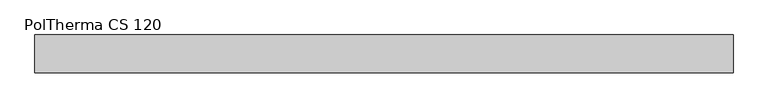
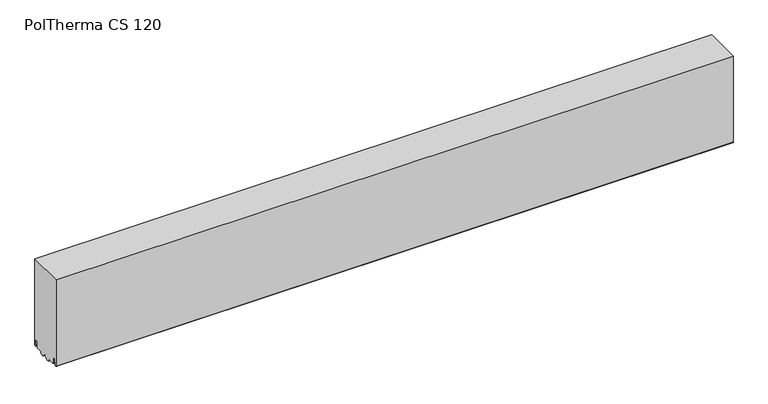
"""IFC4 building model written with IfcOpenShell, lengths in millimetres: plate geometry, Europanels_Poltherma CS_Hz : PolTherma CS 120."""

import ifcopenshell
import ifcopenshell.guid

model = None  # the IFC model being written
_history = None  # IfcOwnerHistory: only IFC2X3 demands one
_inside = {}  # id of a spatial element -> (the spatial element, [elements in it])
_under = {}  # id of a project, library or spatial element -> (it, [spatial elements below it])
_declared = {}  # id of a project -> (the project, [libraries it declares])
_typed = {}  # id of a type object -> (the type object, [elements of that type])
_made_of = {}  # id of a material, layer set ... -> (it, [elements and type objects made of it])


def new_model(schema):
    """Start an empty IFC model of exactly this schema.

    Asked for "IFC4X3", IfcOpenShell would pick the latest addendum, in which some entities
    have other attributes; the version numbers below select the first issue.
    IFC2X3 requires an IfcOwnerHistory on every rooted entity: one is made here for all.
    """
    global model, _history
    if schema == "IFC4X3":
        model = ifcopenshell.file(schema_version=(4, 3, 0, 0))
    else:
        model = ifcopenshell.file(schema=schema)
    _inside.clear()
    _under.clear()
    _declared.clear()
    _typed.clear()
    _made_of.clear()
    _history = None
    if model.schema == "IFC2X3":
        org = make("IfcOrganization", Name="unknown")
        user = make(
            "IfcPersonAndOrganization",
            ThePerson=make("IfcPerson", FamilyName="unknown"),
            TheOrganization=org,
        )
        app = make(
            "IfcApplication",
            ApplicationDeveloper=org,
            Version="unknown",
            ApplicationFullName="unknown",
            ApplicationIdentifier="unknown",
        )
        _history = make(
            "IfcOwnerHistory",
            OwningUser=user,
            OwningApplication=app,
            ChangeAction="ADDED",
            CreationDate=0,
        )
    return model


def make(cls, **values):
    """One entity of the class cls with the attributes given. An attribute that is None is left unset."""
    return model.create_entity(
        cls, **{name: value for name, value in values.items() if value is not None}
    )


def rooted(cls, **values):
    """An entity with a GlobalId (a new one), such as an element, a storey or a relation."""
    return make(cls, GlobalId=ifcopenshell.guid.new(), OwnerHistory=_history, **values)


def si_unit(unit_type, name, prefix=None):
    """IfcSIUnit, for example si_unit("LENGTHUNIT", "METRE", prefix="MILLI")."""
    return make("IfcSIUnit", UnitType=unit_type, Prefix=prefix, Name=name)


def assignment(units):
    """IfcUnitAssignment: the units of a project."""
    return None if units is None else make("IfcUnitAssignment", Units=units)


def point(xyz):
    """IfcCartesianPoint."""
    return None if xyz is None else make("IfcCartesianPoint", Coordinates=xyz)


def direction(xyz):
    """IfcDirection."""
    return None if xyz is None else make("IfcDirection", DirectionRatios=xyz)


def frame(location, z_axis=None, x_axis=None):
    """IfcAxis2Placement3D, a coordinate frame: its origin and axes. An axis left out is left unset."""
    return make(
        "IfcAxis2Placement3D",
        Location=point(location),
        Axis=direction(z_axis),
        RefDirection=direction(x_axis),
    )


def frame_2d(location, x_axis=None):
    """IfcAxis2Placement2D, a coordinate frame in the plane: its origin and x axis."""
    return make(
        "IfcAxis2Placement2D", Location=point(location), RefDirection=direction(x_axis)
    )


def origin():
    """The frame at (0, 0, 0) with its axes left unset."""
    return frame((0.0, 0.0, 0.0))


def place(relative_to, where):
    """IfcLocalPlacement: puts the frame where relative to a parent placement (None: the world)."""
    return make(
        "IfcLocalPlacement", PlacementRelTo=relative_to, RelativePlacement=where
    )


def context(
    kind, dimensions, precision=None, world=None, true_north=None, identifier=None
):
    """IfcGeometricRepresentationContext, for example the 3D "Model" context."""
    return make(
        "IfcGeometricRepresentationContext",
        ContextIdentifier=identifier,
        ContextType=kind,
        CoordinateSpaceDimension=dimensions,
        Precision=precision,
        WorldCoordinateSystem=world,
        TrueNorth=true_north,
    )


def project(units=None, contexts=None):
    """IfcProject with its units and contexts."""
    return rooted(
        "IfcProject",
        Name="project",
        RepresentationContexts=contexts,
        UnitsInContext=assignment(units),
    )


def spatial(cls, under=None, at=None, **own):
    """A site, building, storey or space (cls), placed at a placement, below another one or the project."""
    s = rooted(cls, ObjectPlacement=at, **own)
    if under is not None:
        _under.setdefault(under.id(), (under, []))[1].append(s)
    return s


def polyline(points):
    """IfcPolyline through the points."""
    return make("IfcPolyline", Points=[point(p) for p in points])


def circle_curve(where, radius):
    """IfcCircle in the frame where."""
    return make("IfcCircle", Position=where, Radius=radius)


def trimmed(basis, trim1, trim2, sense, master):
    """IfcTrimmedCurve: the piece of a basis curve between two trims."""
    return make(
        "IfcTrimmedCurve",
        BasisCurve=basis,
        Trim1=trim1,
        Trim2=trim2,
        SenseAgreement=sense,
        MasterRepresentation=master,
    )


def segment(curve, same_sense, transition):
    """IfcCompositeCurveSegment."""
    return make(
        "IfcCompositeCurveSegment",
        Transition=transition,
        SameSense=same_sense,
        ParentCurve=curve,
    )


def composite_curve(segments, self_intersect=None):
    """IfcCompositeCurve: segments joined end to end."""
    return make("IfcCompositeCurve", Segments=segments, SelfIntersect=self_intersect)


def outline(outer, holes=None, kind="AREA"):
    """IfcArbitraryClosedProfileDef: a profile drawn as a closed curve; with holes, ...WithVoids."""
    if holes is None:
        return make("IfcArbitraryClosedProfileDef", ProfileType=kind, OuterCurve=outer)
    return make(
        "IfcArbitraryProfileDefWithVoids",
        ProfileType=kind,
        OuterCurve=outer,
        InnerCurves=holes,
    )


def extrude(swept, where, along, depth):
    """IfcExtrudedAreaSolid: the profile swept, set in the frame where, extruded along a direction by depth."""
    return make(
        "IfcExtrudedAreaSolid",
        SweptArea=swept,
        Position=where,
        ExtrudedDirection=direction(along),
        Depth=depth,
    )


def shape(context_of_items, identifier, shape_type, items):
    """IfcShapeRepresentation: the items that make up one representation, for example the "Body"."""
    return make(
        "IfcShapeRepresentation",
        ContextOfItems=context_of_items,
        RepresentationIdentifier=identifier,
        RepresentationType=shape_type,
        Items=items,
    )


def source(mapping_origin, context_of_items, identifier, shape_type, items):
    """IfcRepresentationMap: a shape defined once, which mapped items show again and again."""
    return make(
        "IfcRepresentationMap",
        MappingOrigin=mapping_origin,
        MappedRepresentation=shape(context_of_items, identifier, shape_type, items),
    )


def transform(
    local_origin,
    x_axis=None,
    y_axis=None,
    z_axis=None,
    scale=None,
    scale2=None,
    scale3=None,
    uniform=True,
):
    """IfcCartesianTransformationOperator3D, or its non-uniform kind. x_axis, y_axis, z_axis: its Axis1, 2, 3."""
    if uniform:
        return make(
            "IfcCartesianTransformationOperator3D",
            Axis1=direction(x_axis),
            Axis2=direction(y_axis),
            LocalOrigin=point(local_origin),
            Scale=scale,
            Axis3=direction(z_axis),
        )
    return make(
        "IfcCartesianTransformationOperator3DnonUniform",
        Axis1=direction(x_axis),
        Axis2=direction(y_axis),
        LocalOrigin=point(local_origin),
        Scale=scale,
        Axis3=direction(z_axis),
        Scale2=scale2,
        Scale3=scale3,
    )


def mapped(mapping_source, mapping_target):
    """IfcMappedItem: shows the shape of a source again, moved by a transform."""
    return make(
        "IfcMappedItem", MappingSource=mapping_source, MappingTarget=mapping_target
    )


def made_of(thing, what):
    """Note that an element or type object is made of a material, layer set ...; save() writes the relation."""
    if what is not None:
        _made_of.setdefault(what.id(), (what, []))[1].append(thing)
    return thing


def element(
    cls,
    number,
    at=None,
    inside=None,
    cuts=None,
    type_object=None,
    material=None,
    context=None,
    identifier="Body",
    shape_type=None,
    held_by="IfcProductDefinitionShape",
    body=None,
    shapes=None,
    **own,
):
    """One element of the class cls, such as IfcWall. Its Tag is "e" and its number.

    at: its placement. inside: the storey or other place that contains it. cuts: it is an
    opening in that element (IfcRelVoidsElement). A single representation is given by context,
    identifier, shape_type and body (its items); several are given by shapes. held_by: the class
    of the entity that holds the representations. save() writes the other relations.
    """
    e = rooted(cls, Tag="e%d" % number, ObjectPlacement=at, **own)
    if body is not None:
        shapes = [shape(context, identifier, shape_type, body)]
    if shapes is not None:
        e.Representation = make(held_by, Representations=shapes)
    if inside is not None:
        _inside.setdefault(inside.id(), (inside, []))[1].append(e)
    if cuts is not None:
        rooted(
            "IfcRelVoidsElement", RelatingBuildingElement=cuts, RelatedOpeningElement=e
        )
    if type_object is not None:
        _typed.setdefault(type_object.id(), (type_object, []))[1].append(e)
    return made_of(e, material)


def aggregate(whole, parts):
    """IfcRelAggregates: a whole, such as a stair, and the parts it consists of."""
    return rooted("IfcRelAggregates", RelatingObject=whole, RelatedObjects=parts)


def save(model, path):
    """Write the relations noted so far, then the file.

    IfcRelAggregates (storeys below a building ...), IfcRelContainedInSpatialStructure (elements
    in a storey), IfcRelDefinesByType, IfcRelAssociatesMaterial and IfcRelDeclares: one each for
    every whole, place, type object, material and project.
    """
    for whole, parts in _under.values():
        aggregate(whole, parts)
    for where, things in _inside.values():
        rooted(
            "IfcRelContainedInSpatialStructure",
            RelatedElements=things,
            RelatingStructure=where,
        )
    for kind, things in _typed.values():
        rooted("IfcRelDefinesByType", RelatedObjects=things, RelatingType=kind)
    for what, things in _made_of.values():
        rooted("IfcRelAssociatesMaterial", RelatedObjects=things, RelatingMaterial=what)
    for by, libraries in _declared.values():
        rooted("IfcRelDeclares", RelatingContext=by, RelatedDefinitions=libraries)
    model.write(path)


def poltherma_cs_120_099495f3(model_context):
    return source(origin(), model_context, "Body", "SweptSolid", [
        extrude(outline(composite_curve([segment(polyline([(-60.0, 3.4988953), (-60.0, 300.0), (60.0, 300.0), (60.0, 3.8623872)]), True, "CONTINUOUS"), segment(trimmed(circle_curve(frame_2d((57.6319739, 3.8623872)), 2.3680261), [point((60.0, 3.8623872))], [point((55.2674058, 3.7344618))], False, "CARTESIAN"), True, "CONTINUOUS"), segment(polyline([(55.2674058, 3.7344618), (54.3293468, 21.0735079)]), True, "CONTINUOUS"), segment(trimmed(circle_curve(frame_2d((51.0496929, 20.8960755)), 3.28445), [point((54.3293468, 21.0735079))], [point((47.7706872, 21.085108))], True, "CARTESIAN"), True, "CONTINUOUS"), segment(polyline([(47.7706872, 21.085108), (46.7366349, 3.1481762)]), True, "CONTINUOUS"), segment(trimmed(circle_curve(frame_2d((44.9895357, 3.2488953)), 1.75), [point((46.7366349, 3.1481762))], [point((44.9895357, 1.4988953))], False, "CARTESIAN"), True, "CONTINUOUS"), segment(polyline([(44.9895357, 1.4988953), (27.5267156, 1.4988953)]), True, "CONTINUOUS"), segment(trimmed(circle_curve(frame_2d((17.7, 3.3524487)), 10.0), [point((27.5267156, 1.4988953))], [point((10.2, -3.2619295))], False, "CARTESIAN"), True, "CONTINUOUS"), segment(trimmed(circle_curve(frame_2d((2.7, -9.8763078)), 10.0), [point((10.2, -3.2619295))], [point((-4.8, -3.2619295))], True, "CARTESIAN"), True, "CONTINUOUS"), segment(trimmed(circle_curve(frame_2d((-12.3, 3.3524487)), 10.0), [point((-4.8, -3.2619295))], [point((-22.1267156, 1.4988953))], False, "CARTESIAN"), True, "CONTINUOUS"), segment(polyline([(-22.1267156, 1.4988953), (-40.5507777, 1.4988953)]), True, "CONTINUOUS"), segment(trimmed(circle_curve(frame_2d((-40.5507777, 3.2988953)), 1.8), [point((-40.5507777, 1.4988953))], [point((-42.3477941, 3.1952985))], False, "CARTESIAN"), True, "CONTINUOUS"), segment(polyline([(-42.3477941, 3.1952985), (-43.3842966, 21.1747334)]), True, "CONTINUOUS"), segment(trimmed(circle_curve(frame_2d((-46.3793238, 21.0020721)), 3.0), [point((-43.3842966, 21.1747334))], [point((-46.3793238, 24.0020721))], True, "CARTESIAN"), True, "CONTINUOUS"), segment(polyline([(-46.3793238, 24.0020721), (-49.3209015, 24.0020721)]), True, "CONTINUOUS"), segment(trimmed(circle_curve(frame_2d((-49.3209015, 21.0020721)), 3.0), [point((-49.3209015, 24.0020721))], [point((-52.3165207, 21.1641379))], True, "CARTESIAN"), True, "CONTINUOUS"), segment(polyline([(-52.3165207, 21.1641379), (-53.2780726, 3.3908514)]), True, "CONTINUOUS"), segment(trimmed(circle_curve(frame_2d((-55.2751521, 3.4988953)), 2.0), [point((-53.2780726, 3.3908514))], [point((-55.2751521, 1.4988953))], False, "CARTESIAN"), True, "CONTINUOUS"), segment(polyline([(-55.2751521, 1.4988953), (-58.0, 1.4988953)]), True, "CONTINUOUS"), segment(trimmed(circle_curve(frame_2d((-58.0, 3.4988953)), 2.0), [point((-58.0, 1.4988953))], [point((-60.0, 3.4988953))], False, "CARTESIAN"), True, "CONTINUOUS")], self_intersect=False)), frame((-1100.0, 0.0, 0.0), z_axis=(1.0, 0.0, 0.0), x_axis=(0.0, 1.0, 0.0)), (0.0, 0.0, 1.0), 2200.0),
    ])


if __name__ == "__main__":
    model = new_model("IFC4")
    model_context = context("Model", 3, world=origin())
    ifc_project = project(units=[si_unit("LENGTHUNIT", "METRE", prefix="MILLI")], contexts=[model_context])
    site = spatial("IfcSite", under=ifc_project)
    building = spatial("IfcBuilding", under=site)
    placement = place(None, origin())
    poltherma_cs_120_shape = poltherma_cs_120_099495f3(model_context)
    element("IfcPlate", 1, ObjectType="Europanels_Poltherma CS_Hz : PolTherma CS 120", at=placement, inside=building, context=model_context, shape_type="MappedRepresentation", body=[
        mapped(poltherma_cs_120_shape, transform((0.0, 0.0, 0.0), x_axis=(1.0, 0.0, 0.0), y_axis=(0.0, 1.0, 0.0), z_axis=(0.0, 0.0, 1.0))),
    ])
    save(model, "model.ifc")
